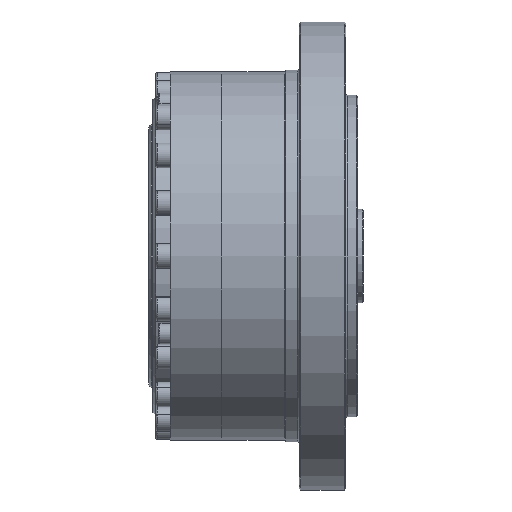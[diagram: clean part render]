
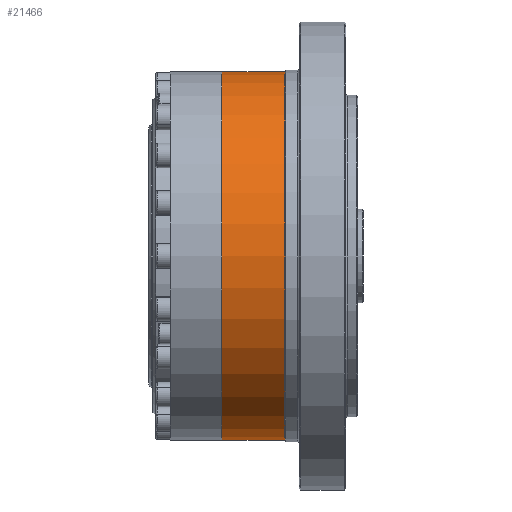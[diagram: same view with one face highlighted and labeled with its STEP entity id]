
A CAD part, front view. The second image highlights one B-rep face of the part: STEP entity #21466.
In plain terms, the highlighted cylindrical face has radius 63 mm (diameter 126 mm), a partial arc.
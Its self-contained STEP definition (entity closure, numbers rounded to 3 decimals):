
#2107 = CARTESIAN_POINT ( 'NONE',  ( 80.512, 0., 0. ) ) ;
#3300 = VECTOR ( 'NONE', #6397, 1000. ) ;
#3352 = CARTESIAN_POINT ( 'NONE',  ( 49.411, 0., 63. ) ) ;
#5349 = CARTESIAN_POINT ( 'NONE',  ( 49.411, 0., 0. ) ) ;
#5812 = CARTESIAN_POINT ( 'NONE',  ( 27.911, 0., 63. ) ) ;
#6302 = ORIENTED_EDGE ( 'NONE', *, *, #17945, .T. ) ;
#6397 = DIRECTION ( 'NONE',  ( 1., 0., 0. ) ) ;
#7225 = CIRCLE ( 'NONE', #24046, 63. ) ;
#7553 = DIRECTION ( 'NONE',  ( 0., 0., -1. ) ) ;
#7617 = ORIENTED_EDGE ( 'NONE', *, *, #26399, .F. ) ;
#8099 = FACE_OUTER_BOUND ( 'NONE', #23870, .T. ) ;
#8898 = ORIENTED_EDGE ( 'NONE', *, *, #23555, .F. ) ;
#10904 = DIRECTION ( 'NONE',  ( 1., 0., 0. ) ) ;
#11621 = VECTOR ( 'NONE', #11871, 1000. ) ;
#11871 = DIRECTION ( 'NONE',  ( 1., 0., 0. ) ) ;
#12514 = CARTESIAN_POINT ( 'NONE',  ( 27.911, 0., 0. ) ) ;
#12547 = CYLINDRICAL_SURFACE ( 'NONE', #14397, 63. ) ;
#12586 = VERTEX_POINT ( 'NONE', #24866 ) ;
#13012 = DIRECTION ( 'NONE',  ( 0., 0., -1. ) ) ;
#14397 = AXIS2_PLACEMENT_3D ( 'NONE', #2107, #10904, #13012 ) ;
#14613 = EDGE_CURVE ( 'NONE', #12586, #15208, #25892, .T. ) ;
#14714 = DIRECTION ( 'NONE',  ( 0., 0., -1. ) ) ;
#14879 = ORIENTED_EDGE ( 'NONE', *, *, #14613, .T. ) ;
#15208 = VERTEX_POINT ( 'NONE', #23862 ) ;
#17922 = VERTEX_POINT ( 'NONE', #5812 ) ;
#17945 = EDGE_CURVE ( 'NONE', #17922, #12586, #7225, .T. ) ;
#20618 = DIRECTION ( 'NONE',  ( 1., 0., 0. ) ) ;
#21466 = ADVANCED_FACE ( 'NONE', ( #8099 ), #12547, .T. ) ;
#21670 = CARTESIAN_POINT ( 'NONE',  ( 80.512, 0., -63. ) ) ;
#22155 = AXIS2_PLACEMENT_3D ( 'NONE', #5349, #20618, #7553 ) ;
#23128 = VERTEX_POINT ( 'NONE', #3352 ) ;
#23555 = EDGE_CURVE ( 'NONE', #23128, #15208, #26825, .T. ) ;
#23862 = CARTESIAN_POINT ( 'NONE',  ( 49.411, 0., -63. ) ) ;
#23870 = EDGE_LOOP ( 'NONE', ( #7617, #6302, #14879, #8898 ) ) ;
#24046 = AXIS2_PLACEMENT_3D ( 'NONE', #12514, #27800, #14714 ) ;
#24630 = LINE ( 'NONE', #27175, #11621 ) ;
#24866 = CARTESIAN_POINT ( 'NONE',  ( 27.911, 0., -63. ) ) ;
#25892 = LINE ( 'NONE', #21670, #3300 ) ;
#26399 = EDGE_CURVE ( 'NONE', #17922, #23128, #24630, .T. ) ;
#26825 = CIRCLE ( 'NONE', #22155, 63. ) ;
#27175 = CARTESIAN_POINT ( 'NONE',  ( 80.512, 0., 63. ) ) ;
#27800 = DIRECTION ( 'NONE',  ( 1., 0., 0. ) ) ;
